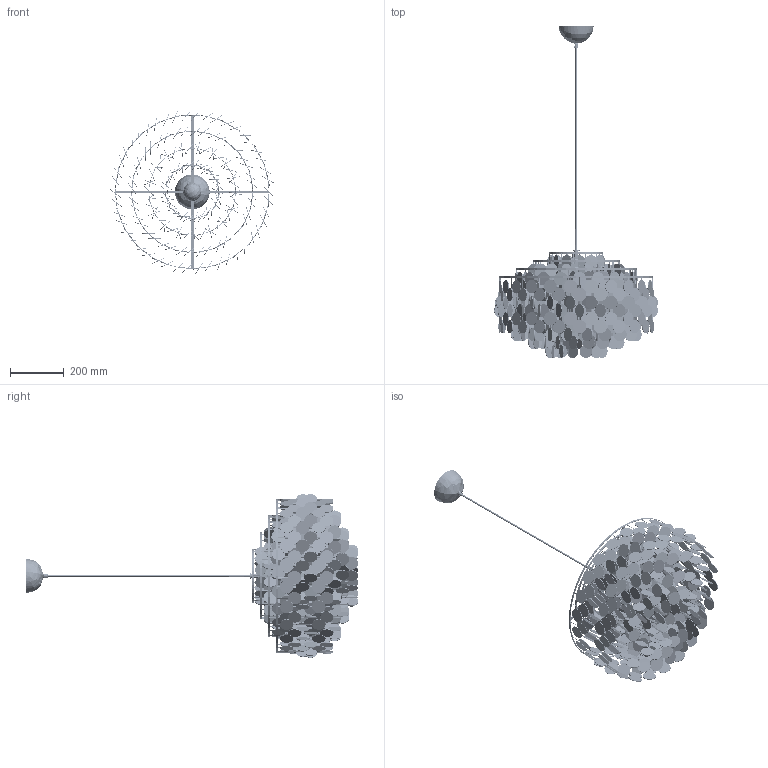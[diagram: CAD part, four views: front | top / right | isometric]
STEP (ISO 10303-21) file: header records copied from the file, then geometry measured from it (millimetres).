
FILE_DESCRIPTION (( 'STEP AP214' ), '1' );
FILE_NAME ('FUN 10DM Assembly.STEP', '2013-01-27T17:43:57', ( '' ), ( '' ), 'SwSTEP 2.0', 'SolidWorks 2013', '' );
FILE_SCHEMA (( 'AUTOMOTIVE_DESIGN' ));
Length unit declared in the file: millimetre
Products named in the file (14): 4 Shells 1; 4 Shells 2; 5 Shells 1; 5 Shells 2; 6 Shells 1; 6 Shells 2; VP Fun10DM stel; Cable; 74882 16W, E27, A65 Lyskilde; Kabeldel; VP baldakin; FUN 10DM Assembly; 3 Shells 2; 3 Shells 1
Assembly tree (151 placements, depth 2):
  FUN 10DM Assembly
    VP baldakin
    Kabeldel
    Cable
    VP Fun10DM stel
    6 Shells 2  x13
    6 Shells 1  x13
    5 Shells 2  x17
    5 Shells 1  x17
    4 Shells 2  x20
    4 Shells 1  x20
    74882 16W, E27, A65 Lyskilde
    3 Shells 1  x23
    3 Shells 2  x23
Bounding box: 611.26 x 1238.95 x 611.65 mm (x, y, z)
Volume: 3027986.9 mm3; surface area: 2934903 mm2
Topology: 155 solids, 155 shells, 5034 faces, 10415 edges, 5672 vertices
Faces by surface type: cylinder 3326, plane 1660, bspline 34, cone 14
Entity records: 28704 total; most frequent: CARTESIAN_POINT 8656, DIRECTION 2790, ORIENTED_EDGE 2674, EDGE_CURVE 1337, AXIS2_PLACEMENT_3D 1141, VERTEX_POINT 810, UNCERTAINTY_MEASURE_WITH_UNIT 593, FILL_AREA_STYLE 579
